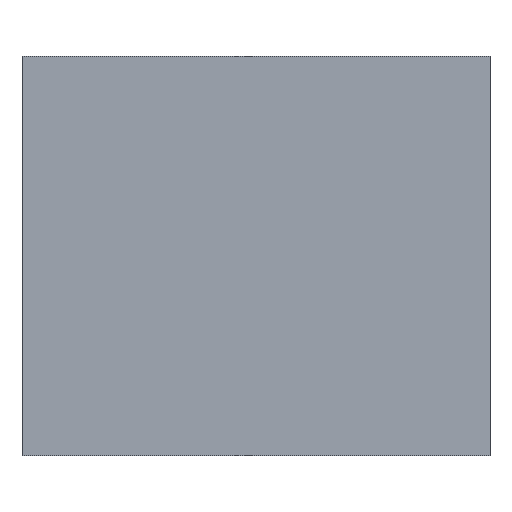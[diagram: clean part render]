
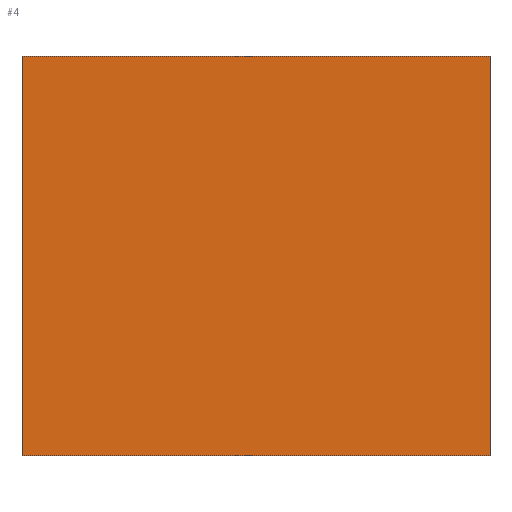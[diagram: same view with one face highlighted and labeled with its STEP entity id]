
A CAD part, top view. The second image highlights one B-rep face of the part: STEP entity #4.
In plain terms, the highlighted planar face has unit normal (0, 0, 1).
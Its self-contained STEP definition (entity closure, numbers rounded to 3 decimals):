
#4 = ADVANCED_FACE ( 'NONE', ( #198 ), #107, .F. ) ;
#21 = EDGE_CURVE ( 'NONE', #113, #118, #165, .T. ) ;
#24 = AXIS2_PLACEMENT_3D ( 'NONE', #104, #98, #97 ) ;
#33 = EDGE_CURVE ( 'NONE', #115, #114, #144, .T. ) ;
#36 = EDGE_CURVE ( 'NONE', #114, #113, #174, .T. ) ;
#38 = EDGE_CURVE ( 'NONE', #118, #115, #177, .T. ) ;
#55 = CARTESIAN_POINT ( 'NONE',  ( 251., 0., 6. ) ) ;
#56 = CARTESIAN_POINT ( 'NONE',  ( 251., 429., 6. ) ) ;
#58 = DIRECTION ( 'NONE',  ( 1., 0., 0. ) ) ;
#59 = CARTESIAN_POINT ( 'NONE',  ( -251., 0., 6. ) ) ;
#60 = CARTESIAN_POINT ( 'NONE',  ( -251., 429., 6. ) ) ;
#63 = DIRECTION ( 'NONE',  ( -1., 0., 0. ) ) ;
#64 = CARTESIAN_POINT ( 'NONE',  ( -251., 429., 6. ) ) ;
#65 = DIRECTION ( 'NONE',  ( 0., 1., 0. ) ) ;
#66 = CARTESIAN_POINT ( 'NONE',  ( 251., 0., 6. ) ) ;
#69 = DIRECTION ( 'NONE',  ( 0., -1., 0. ) ) ;
#75 = CARTESIAN_POINT ( 'NONE',  ( -251., 0., 6. ) ) ;
#97 = DIRECTION ( 'NONE',  ( 0., 1., 0. ) ) ;
#98 = DIRECTION ( 'NONE',  ( 0., 0., -1. ) ) ;
#104 = CARTESIAN_POINT ( 'NONE',  ( -251., 429., 6. ) ) ;
#107 = PLANE ( 'NONE',  #24 ) ;
#113 = VERTEX_POINT ( 'NONE', #60 ) ;
#114 = VERTEX_POINT ( 'NONE', #56 ) ;
#115 = VERTEX_POINT ( 'NONE', #55 ) ;
#118 = VERTEX_POINT ( 'NONE', #124 ) ;
#124 = CARTESIAN_POINT ( 'NONE',  ( -251., 0., 6. ) ) ;
#144 = LINE ( 'NONE', #66, #145 ) ;
#145 = VECTOR ( 'NONE', #65, 1000. ) ;
#146 = EDGE_LOOP ( 'NONE', ( #155, #182, #202, #147 ) ) ;
#147 = ORIENTED_EDGE ( 'NONE', *, *, #36, .T. ) ;
#155 = ORIENTED_EDGE ( 'NONE', *, *, #21, .T. ) ;
#165 = LINE ( 'NONE', #75, #185 ) ;
#174 = LINE ( 'NONE', #64, #183 ) ;
#177 = LINE ( 'NONE', #59, #178 ) ;
#178 = VECTOR ( 'NONE', #58, 1000. ) ;
#182 = ORIENTED_EDGE ( 'NONE', *, *, #38, .T. ) ;
#183 = VECTOR ( 'NONE', #63, 1000. ) ;
#185 = VECTOR ( 'NONE', #69, 1000. ) ;
#198 = FACE_OUTER_BOUND ( 'NONE', #146, .T. ) ;
#202 = ORIENTED_EDGE ( 'NONE', *, *, #33, .T. ) ;
